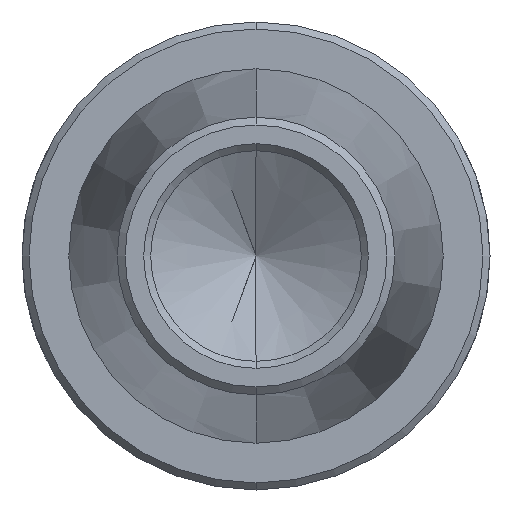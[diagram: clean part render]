
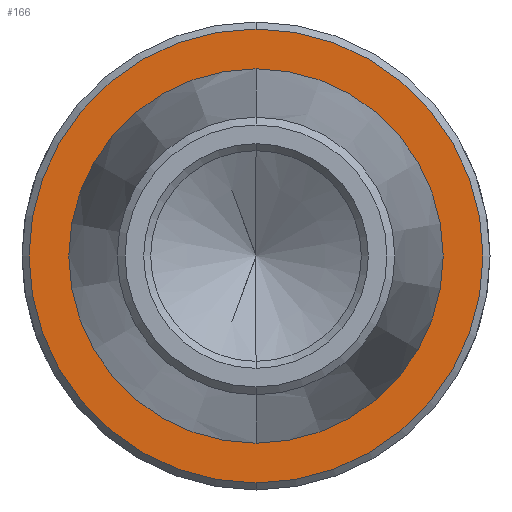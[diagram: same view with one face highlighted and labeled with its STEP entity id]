
A CAD part, front view. The second image highlights one B-rep face of the part: STEP entity #166.
In plain terms, the highlighted planar face has unit normal (0, -1, 0).
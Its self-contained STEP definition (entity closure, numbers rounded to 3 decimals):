
#5 = PLANE ( 'NONE',  #681 ) ;
#29 = CIRCLE ( 'NONE', #368, 8. ) ;
#33 = CARTESIAN_POINT ( 'NONE',  ( 0., 3., 0. ) ) ;
#35 = FACE_OUTER_BOUND ( 'NONE', #238, .T. ) ;
#77 = CARTESIAN_POINT ( 'NONE',  ( 0., 3., 0. ) ) ;
#127 = AXIS2_PLACEMENT_3D ( 'NONE', #442, #970, #353 ) ;
#166 = ADVANCED_FACE ( 'NONE', ( #35, #481 ), #5, .F. ) ;
#238 = EDGE_LOOP ( 'NONE', ( #648, #619 ) ) ;
#254 = VERTEX_POINT ( 'NONE', #280 ) ;
#274 = CARTESIAN_POINT ( 'NONE',  ( 0., 3., 8. ) ) ;
#280 = CARTESIAN_POINT ( 'NONE',  ( 0., 3., -8. ) ) ;
#282 = AXIS2_PLACEMENT_3D ( 'NONE', #737, #584, #808 ) ;
#320 = DIRECTION ( 'NONE',  ( 0., 1., 0. ) ) ;
#350 = VERTEX_POINT ( 'NONE', #986 ) ;
#353 = DIRECTION ( 'NONE',  ( 0., 0., 1. ) ) ;
#368 = AXIS2_PLACEMENT_3D ( 'NONE', #33, #819, #428 ) ;
#392 = CIRCLE ( 'NONE', #127, 9.7 ) ;
#415 = EDGE_CURVE ( 'NONE', #254, #984, #672, .T. ) ;
#428 = DIRECTION ( 'NONE',  ( 0., 0., 1. ) ) ;
#442 = CARTESIAN_POINT ( 'NONE',  ( 0., 3., 0. ) ) ;
#455 = DIRECTION ( 'NONE',  ( 0., 0., 1. ) ) ;
#481 = FACE_BOUND ( 'NONE', #558, .T. ) ;
#491 = ORIENTED_EDGE ( 'NONE', *, *, #415, .T. ) ;
#537 = VERTEX_POINT ( 'NONE', #897 ) ;
#553 = DIRECTION ( 'NONE',  ( 0., 0., 1. ) ) ;
#558 = EDGE_LOOP ( 'NONE', ( #491, #941 ) ) ;
#584 = DIRECTION ( 'NONE',  ( 0., -1., 0. ) ) ;
#611 = AXIS2_PLACEMENT_3D ( 'NONE', #774, #320, #455 ) ;
#619 = ORIENTED_EDGE ( 'NONE', *, *, #978, .T. ) ;
#624 = DIRECTION ( 'NONE',  ( 0., 1., 0. ) ) ;
#648 = ORIENTED_EDGE ( 'NONE', *, *, #939, .T. ) ;
#657 = EDGE_CURVE ( 'NONE', #984, #254, #29, .T. ) ;
#672 = CIRCLE ( 'NONE', #611, 8. ) ;
#681 = AXIS2_PLACEMENT_3D ( 'NONE', #77, #624, #553 ) ;
#686 = CIRCLE ( 'NONE', #282, 9.7 ) ;
#737 = CARTESIAN_POINT ( 'NONE',  ( 0., 3., 0. ) ) ;
#774 = CARTESIAN_POINT ( 'NONE',  ( 0., 3., 0. ) ) ;
#808 = DIRECTION ( 'NONE',  ( 0., 0., 1. ) ) ;
#819 = DIRECTION ( 'NONE',  ( 0., 1., 0. ) ) ;
#897 = CARTESIAN_POINT ( 'NONE',  ( 0., 3., 9.7 ) ) ;
#939 = EDGE_CURVE ( 'NONE', #537, #350, #686, .T. ) ;
#941 = ORIENTED_EDGE ( 'NONE', *, *, #657, .T. ) ;
#970 = DIRECTION ( 'NONE',  ( 0., -1., 0. ) ) ;
#978 = EDGE_CURVE ( 'NONE', #350, #537, #392, .T. ) ;
#984 = VERTEX_POINT ( 'NONE', #274 ) ;
#986 = CARTESIAN_POINT ( 'NONE',  ( 0., 3., -9.7 ) ) ;
